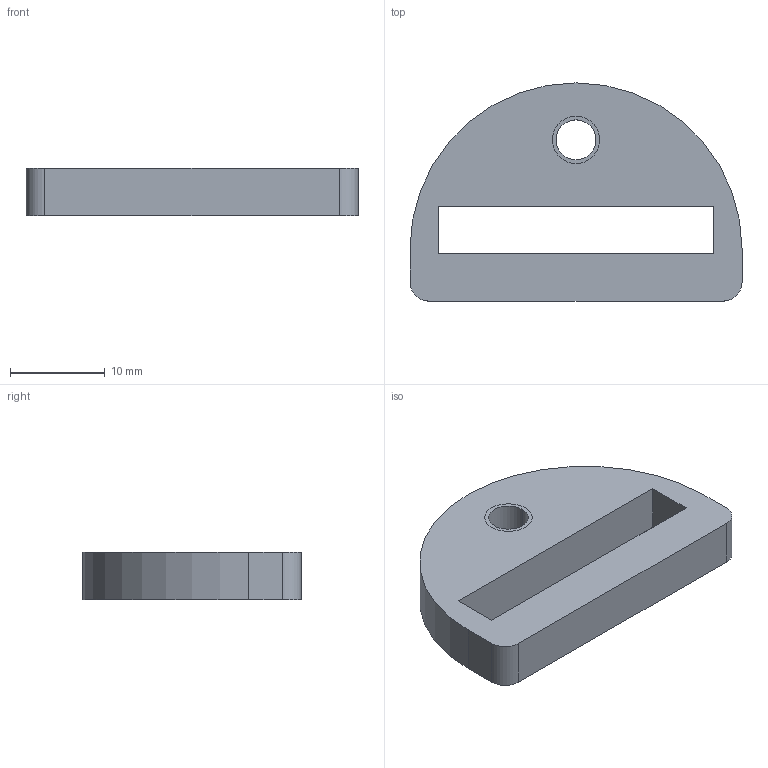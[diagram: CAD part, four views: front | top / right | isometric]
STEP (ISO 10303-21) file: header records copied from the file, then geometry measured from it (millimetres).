
FILE_DESCRIPTION((''),'2;1');
FILE_NAME('0000187334','2024-01-01T18:45:15',('Wyndorps'),(''),'CREO PARAMETRIC BY PTC INC, 2022484','CREO PARAMETRIC BY PTC INC, 2022484','');
FILE_SCHEMA(('CONFIG_CONTROL_DESIGN'));
Length unit declared in the file: millimetre
Products named in the file (1): 0000187334
Bounding box: 35 x 23 x 5 mm (x, y, z)
Volume: 2564.9 mm3; surface area: 2006.8 mm2
Topology: 1 solids, 2 shells, 16 faces, 42 edges, 28 vertices
Faces by surface type: plane 9, cylinder 7
Entity records: 552 total; most frequent: DIRECTION 90, CARTESIAN_POINT 87, ORIENTED_EDGE 80, EDGE_CURVE 42, AXIS2_PLACEMENT_3D 31, VECTOR 28, LINE 28, VERTEX_POINT 28
